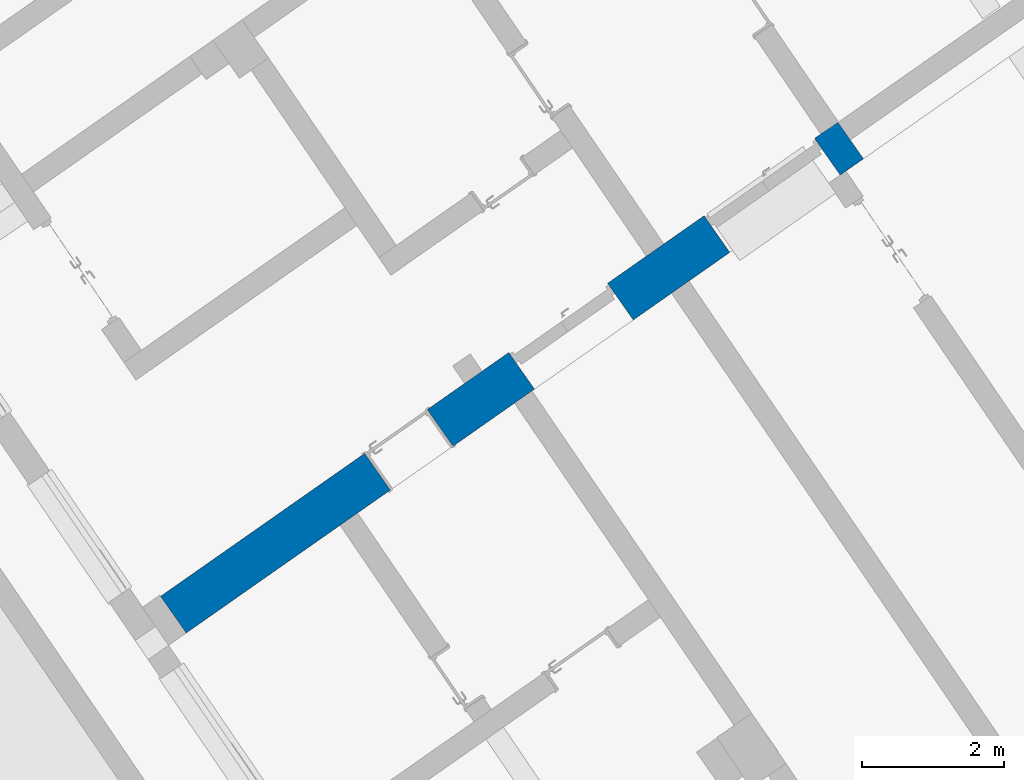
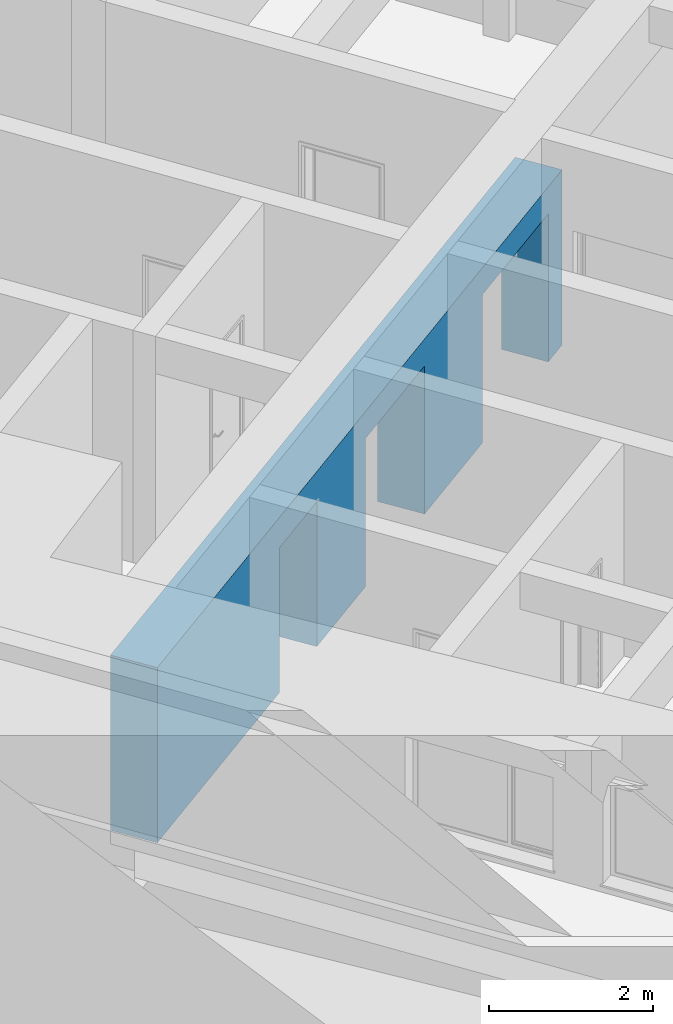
# One storey, part 31 of 112: 1 wall, 3 openings.
"""IFC2X3 building model written with IfcOpenShell, lengths in millimetres."""

from ifc_helpers import new_model, entity, si_unit, converted_unit, derived_unit, direction, frame, frame_2d, origin, place, context, subcontext, project, spatial, rectangle, extrude, material, layer, layer_set, layer_usage, type_object, element, save


model = new_model("IFC2X3")

# Units and contexts
model_context = context("Model", 3, precision=0.01, world=origin(), true_north=direction((6.123031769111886e-17, 1.0)))
body_context = subcontext(model_context, "Body", "Model", "MODEL_VIEW")
ifc_project = project(units=[si_unit("LENGTHUNIT", "METRE", prefix="MILLI"), si_unit("AREAUNIT", "SQUARE_METRE"), si_unit("VOLUMEUNIT", "CUBIC_METRE"), converted_unit("PLANEANGLEUNIT", "DEGREE", entity("IfcRatioMeasure", 0.017453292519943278), si_unit("PLANEANGLEUNIT", "RADIAN"), dimensions=[0, 0, 0, 0, 0, 0, 0]), si_unit("MASSUNIT", "GRAM", prefix="KILO"), derived_unit("MASSDENSITYUNIT", [(si_unit("MASSUNIT", "GRAM", prefix="KILO"), 1), (si_unit("LENGTHUNIT", "METRE"), -3)]), derived_unit("MOMENTOFINERTIAUNIT", [(si_unit("LENGTHUNIT", "METRE"), 4)]), si_unit("TIMEUNIT", "SECOND"), si_unit("FREQUENCYUNIT", "HERTZ"), si_unit("THERMODYNAMICTEMPERATUREUNIT", "DEGREE_CELSIUS"), derived_unit("THERMALTRANSMITTANCEUNIT", [(si_unit("MASSUNIT", "GRAM", prefix="KILO"), 1), (si_unit("THERMODYNAMICTEMPERATUREUNIT", "KELVIN"), -1), (si_unit("TIMEUNIT", "SECOND"), -3)]), derived_unit("THERMALCONDUCTANCEUNIT", [(si_unit("MASSUNIT", "GRAM", prefix="KILO"), 1), (si_unit("LENGTHUNIT", "METRE"), 1), (si_unit("THERMODYNAMICTEMPERATUREUNIT", "KELVIN"), -1), (si_unit("TIMEUNIT", "SECOND"), -3)]), derived_unit("VOLUMETRICFLOWRATEUNIT", [(si_unit("LENGTHUNIT", "METRE"), 3), (si_unit("TIMEUNIT", "SECOND"), -1)]), derived_unit("MASSFLOWRATEUNIT", [(si_unit("MASSUNIT", "GRAM", prefix="KILO"), 1), (si_unit("TIMEUNIT", "SECOND"), -1)]), derived_unit("ROTATIONALFREQUENCYUNIT", [(si_unit("TIMEUNIT", "SECOND"), -1)]), si_unit("ELECTRICCURRENTUNIT", "AMPERE"), si_unit("ELECTRICVOLTAGEUNIT", "VOLT"), si_unit("POWERUNIT", "WATT"), converted_unit("FORCEUNIT", "KIP", entity("IfcRatioMeasure", 2.088543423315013e-05), si_unit("FORCEUNIT", "NEWTON"), dimensions=[1, 1, -2, 0, 0, 0, 0]), si_unit("ILLUMINANCEUNIT", "LUX"), si_unit("LUMINOUSFLUXUNIT", "LUMEN"), si_unit("LUMINOUSINTENSITYUNIT", "CANDELA"), derived_unit("USERDEFINED", [(si_unit("MASSUNIT", "GRAM", prefix="KILO"), -1), (si_unit("LENGTHUNIT", "METRE"), -2), (si_unit("TIMEUNIT", "SECOND"), 3), (si_unit("LUMINOUSFLUXUNIT", "LUMEN"), 1)]), derived_unit("USERDEFINED", [(si_unit("MASSUNIT", "GRAM", prefix="KILO"), 1), (si_unit("LENGTHUNIT", "METRE"), 3), (si_unit("TIMEUNIT", "SECOND"), -3), (si_unit("ELECTRICCURRENTUNIT", "AMPERE"), -2)]), derived_unit("USERDEFINED", [(si_unit("LENGTHUNIT", "METRE"), 2), (si_unit("TIMEUNIT", "SECOND"), -2)]), derived_unit("SOUNDPOWERUNIT", [(si_unit("MASSUNIT", "GRAM", prefix="KILO"), 1), (si_unit("LENGTHUNIT", "METRE"), 2), (si_unit("TIMEUNIT", "SECOND"), -3)]), derived_unit("SOUNDPRESSUREUNIT", [(si_unit("MASSUNIT", "GRAM", prefix="KILO"), 1), (si_unit("LENGTHUNIT", "METRE"), -1), (si_unit("TIMEUNIT", "SECOND"), -2)]), derived_unit("LINEARVELOCITYUNIT", [(si_unit("LENGTHUNIT", "METRE"), 1), (si_unit("TIMEUNIT", "SECOND"), -1)]), si_unit("PRESSUREUNIT", "PASCAL"), derived_unit("USERDEFINED", [(si_unit("LENGTHUNIT", "METRE"), -2), (si_unit("MASSUNIT", "GRAM", prefix="KILO"), 1), (si_unit("TIMEUNIT", "SECOND"), -2)]), derived_unit("LINEARFORCEUNIT", [(si_unit("MASSUNIT", "GRAM", prefix="KILO"), 1), (si_unit("LENGTHUNIT", "METRE"), 1), (si_unit("TIMEUNIT", "SECOND"), -2), (si_unit("LENGTHUNIT", "METRE"), -1)]), derived_unit("PLANARFORCEUNIT", [(si_unit("MASSUNIT", "GRAM", prefix="KILO"), 1), (si_unit("LENGTHUNIT", "METRE"), 1), (si_unit("TIMEUNIT", "SECOND"), -2), (si_unit("LENGTHUNIT", "METRE"), -2)]), derived_unit("SPECIFICHEATCAPACITYUNIT", [(si_unit("LENGTHUNIT", "METRE"), 2), (si_unit("TIMEUNIT", "SECOND"), -2), (si_unit("THERMODYNAMICTEMPERATUREUNIT", "KELVIN"), -1)]), derived_unit("VAPORPERMEABILITYUNIT", [(si_unit("TIMEUNIT", "SECOND"), 1), (si_unit("LENGTHUNIT", "METRE"), -1)]), derived_unit("DYNAMICVISCOSITYUNIT", [(si_unit("MASSUNIT", "GRAM", prefix="KILO"), 1), (si_unit("LENGTHUNIT", "METRE"), -1), (si_unit("TIMEUNIT", "SECOND"), -1)]), derived_unit("THERMALEXPANSIONCOEFFICIENTUNIT", [(si_unit("THERMODYNAMICTEMPERATUREUNIT", "KELVIN"), -1)])], contexts=[model_context])

# Site, building, storey
site_placement = place(None, frame((0.0, 0.0, 0.0), z_axis=(0.0, 0.0, 1.0), x_axis=(0.8191520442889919, 0.5735764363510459, 0.0)))
site = spatial("IfcSite", under=ifc_project, at=site_placement, Name="Default", CompositionType="ELEMENT")
building_placement = place(site_placement, origin())
building = spatial("IfcBuilding", under=site, at=building_placement, CompositionType="ELEMENT")
storey_placement = place(building_placement, frame((0.0, 0.0, -3600.0)))
storey = spatial("IfcBuildingStorey", under=building, at=storey_placement, Name="0.UG -3.60", CompositionType="ELEMENT", Elevation=-3600.0000000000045)

# Wall, openings
ifc_material = material(Name="Analytical Wall Surface_CJC")
ifc_layer = layer(ifc_material, 630.0)
ifc_layer_set = layer_set([ifc_layer], Name="Basic Wall:Wand_Innen_63")
ifc_layer_usage = layer_usage(ifc_layer_set, "AXIS2", "POSITIVE", -315.0)
wall_type = type_object("IfcWallType", Name="Basic Wall:Wand_Innen_63", PredefinedType="STANDARD", material=ifc_layer_set)
wall_placement = place(storey_placement, frame((-222602.9510149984, 103536.35891435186, 0.0)))
wall = element("IfcWallStandardCase", 1, at=wall_placement, inside=storey, type_object=wall_type, material=ifc_layer_usage, Name="Basic Wall:Wand_Innen_63", ObjectType="Basic Wall:Wand_Innen_63", context=body_context, shape_type="SweptSolid", body=[
    extrude(rectangle(XDim=11646.857204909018, YDim=629.9999999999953, at=frame_2d((5823.428602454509, -2.1884716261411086e-12), x_axis=(1.0, 0.0))), origin(), (0.0, 0.0, 1.0), 2600.0),
])
opening_1_placement = place(wall_placement, frame((9347.807204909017, -315.0, 0.0)))
element("IfcOpeningElement", 2, at=opening_1_placement, cuts=wall, Name="M_Door-Passage-Double-Flush:180x210:1", ObjectType="Opening", context=body_context, shape_type="SweptSolid", body=[
    extrude(rectangle(XDim=2200.0, YDim=1899.9999999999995, at=frame_2d((1100.0, 949.9999999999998), x_axis=(1.0, 0.0))), frame((0.0, 0.0, 0.0), z_axis=(0.0, 1.0, 0.0), x_axis=(0.0, 0.0, 1.0)), (0.0, 0.0, 1.0), 630.0),
])
opening_2_placement = place(wall_placement, frame((5988.757204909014, -315.0, 0.0)))
element("IfcOpeningElement", 3, at=opening_2_placement, cuts=wall, Name="M_Door-Passage-Double-Flush:160x210:1", ObjectType="Opening", context=body_context, shape_type="SweptSolid", body=[
    extrude(rectangle(XDim=2200.0, YDim=1699.9999999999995, at=frame_2d((1100.0, 849.9999999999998), x_axis=(1.0, 0.0))), frame((0.0, 0.0, 0.0), z_axis=(0.0, 1.0, 0.0), x_axis=(0.0, 0.0, 1.0)), (0.0, 0.0, 1.0), 630.0),
])
opening_3_placement = place(wall_placement, frame((3508.757204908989, -315.0, 0.0)))
element("IfcOpeningElement", 4, at=opening_3_placement, cuts=wall, Name="Doors_IntSgl:100x210:1", ObjectType="Opening", context=body_context, shape_type="SweptSolid", body=[
    extrude(rectangle(XDim=2150.000000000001, YDim=1079.9999999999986, at=frame_2d((1075.0000000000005, 539.9999999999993), x_axis=(1.0, 0.0))), frame((0.0, 0.0, 0.0), z_axis=(0.0, 1.0, 0.0), x_axis=(0.0, 0.0, 1.0)), (0.0, 0.0, 1.0), 630.0),
])

save(model, "model.ifc")
